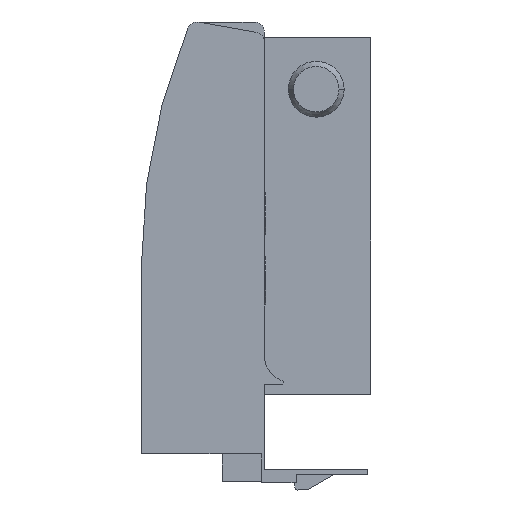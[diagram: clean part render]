
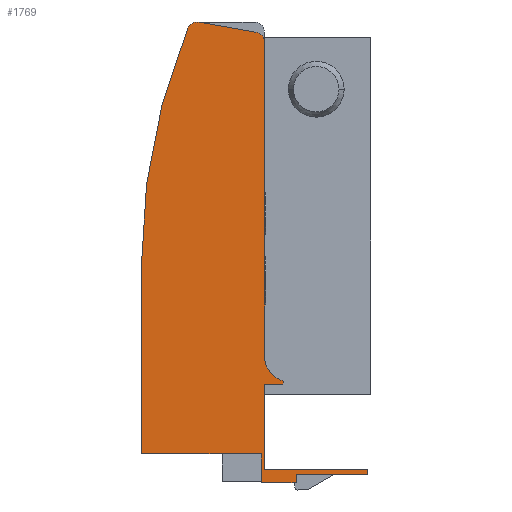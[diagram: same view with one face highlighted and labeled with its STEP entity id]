
A CAD part, front view. The second image highlights one B-rep face of the part: STEP entity #1769.
In plain terms, the highlighted planar face has unit normal (0, -1, 0).
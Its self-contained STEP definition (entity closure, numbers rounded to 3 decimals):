
#46 = VECTOR ( 'NONE', #949, 1000. ) ;
#47 = LINE ( 'NONE', #948, #46 ) ;
#61 = CIRCLE ( 'NONE', #1439, 5. ) ;
#67 = VECTOR ( 'NONE', #926, 1000. ) ;
#68 = LINE ( 'NONE', #925, #67 ) ;
#77 = VECTOR ( 'NONE', #916, 1000. ) ;
#79 = LINE ( 'NONE', #915, #77 ) ;
#83 = VECTOR ( 'NONE', #906, 1000. ) ;
#84 = LINE ( 'NONE', #905, #83 ) ;
#97 = VECTOR ( 'NONE', #892, 1000. ) ;
#98 = LINE ( 'NONE', #891, #97 ) ;
#101 = VECTOR ( 'NONE', #888, 1000. ) ;
#102 = LINE ( 'NONE', #887, #101 ) ;
#118 = VECTOR ( 'NONE', #865, 1000. ) ;
#119 = LINE ( 'NONE', #864, #118 ) ;
#127 = VECTOR ( 'NONE', #854, 1000. ) ;
#128 = LINE ( 'NONE', #853, #127 ) ;
#134 = CIRCLE ( 'NONE', #1432, 2. ) ;
#140 = CIRCLE ( 'NONE', #1430, 2. ) ;
#142 = VECTOR ( 'NONE', #833, 1000. ) ;
#143 = CIRCLE ( 'NONE', #1429, 120.6 ) ;
#144 = LINE ( 'NONE', #832, #142 ) ;
#145 = VECTOR ( 'NONE', #828, 1000. ) ;
#146 = LINE ( 'NONE', #827, #145 ) ;
#147 = VECTOR ( 'NONE', #826, 1000. ) ;
#148 = LINE ( 'NONE', #825, #147 ) ;
#149 = VECTOR ( 'NONE', #824, 1000. ) ;
#150 = LINE ( 'NONE', #823, #149 ) ;
#151 = VECTOR ( 'NONE', #822, 1000. ) ;
#152 = LINE ( 'NONE', #821, #151 ) ;
#368 = ORIENTED_EDGE ( 'NONE', *, *, #1675, .F. ) ;
#386 = ORIENTED_EDGE ( 'NONE', *, *, #1683, .F. ) ;
#392 = ORIENTED_EDGE ( 'NONE', *, *, #1631, .T. ) ;
#395 = ORIENTED_EDGE ( 'NONE', *, *, #1630, .T. ) ;
#400 = ORIENTED_EDGE ( 'NONE', *, *, #1629, .F. ) ;
#404 = ORIENTED_EDGE ( 'NONE', *, *, #1672, .F. ) ;
#405 = ORIENTED_EDGE ( 'NONE', *, *, #1635, .F. ) ;
#442 = ORIENTED_EDGE ( 'NONE', *, *, #1644, .F. ) ;
#444 = ORIENTED_EDGE ( 'NONE', *, *, #1667, .F. ) ;
#490 = ORIENTED_EDGE ( 'NONE', *, *, #1656, .F. ) ;
#507 = ORIENTED_EDGE ( 'NONE', *, *, #1639, .F. ) ;
#676 = CARTESIAN_POINT ( 'NONE',  ( 21.5, 0., 5.395 ) ) ;
#679 = CARTESIAN_POINT ( 'NONE',  ( 20.9, 0., -19.1 ) ) ;
#681 = CARTESIAN_POINT ( 'NONE',  ( 6.648, 0., 68.756 ) ) ;
#698 = CARTESIAN_POINT ( 'NONE',  ( 25.161, 0., 0.578 ) ) ;
#711 = CARTESIAN_POINT ( 'NONE',  ( 25., 0., 0. ) ) ;
#715 = CARTESIAN_POINT ( 'NONE',  ( 41.499, 0., -16.5 ) ) ;
#721 = CARTESIAN_POINT ( 'NONE',  ( 8.847, 0., 69.97 ) ) ;
#725 = CARTESIAN_POINT ( 'NONE',  ( 19.847, 0., 68.03 ) ) ;
#730 = CARTESIAN_POINT ( 'NONE',  ( -2.3, 0., -13.5 ) ) ;
#790 = CARTESIAN_POINT ( 'NONE',  ( 27.599, 0., -19.1 ) ) ;
#821 = CARTESIAN_POINT ( 'NONE',  ( 25., 0., 0. ) ) ;
#822 = DIRECTION ( 'NONE',  ( -1., 0., 0. ) ) ;
#823 = CARTESIAN_POINT ( 'NONE',  ( 41.499, 0., -16.5 ) ) ;
#824 = DIRECTION ( 'NONE',  ( 0., 0., -1. ) ) ;
#825 = CARTESIAN_POINT ( 'NONE',  ( 41.499, 0., -17.528 ) ) ;
#826 = DIRECTION ( 'NONE',  ( -1., 0., 0. ) ) ;
#827 = CARTESIAN_POINT ( 'NONE',  ( 27.599, 0., -17.528 ) ) ;
#828 = DIRECTION ( 'NONE',  ( 0., 0., -1. ) ) ;
#829 = CARTESIAN_POINT ( 'NONE',  ( 118.3, 0., 23.168 ) ) ;
#830 = DIRECTION ( 'NONE',  ( 0., 1., 0. ) ) ;
#831 = DIRECTION ( 'NONE',  ( -1., 0., 0. ) ) ;
#832 = CARTESIAN_POINT ( 'NONE',  ( 8.847, 0., 69.97 ) ) ;
#833 = DIRECTION ( 'NONE',  ( -0.985, 0., 0.174 ) ) ;
#834 = CARTESIAN_POINT ( 'NONE',  ( 19.5, 0., 66.06 ) ) ;
#835 = DIRECTION ( 'NONE',  ( 0., -1., 0. ) ) ;
#836 = DIRECTION ( 'NONE',  ( -1., 0., 0. ) ) ;
#844 = CARTESIAN_POINT ( 'NONE',  ( 8.5, 0., 68. ) ) ;
#845 = DIRECTION ( 'NONE',  ( 0., 1., 0. ) ) ;
#846 = DIRECTION ( 'NONE',  ( -1., 0., 0. ) ) ;
#853 = CARTESIAN_POINT ( 'NONE',  ( 21.5, 0., -13.5 ) ) ;
#854 = DIRECTION ( 'NONE',  ( -1., 0., 0. ) ) ;
#864 = CARTESIAN_POINT ( 'NONE',  ( -2.3, 0., -13.5 ) ) ;
#865 = DIRECTION ( 'NONE',  ( 0., 0., 1. ) ) ;
#887 = CARTESIAN_POINT ( 'NONE',  ( 21.5, 0., 0. ) ) ;
#888 = DIRECTION ( 'NONE',  ( 0., 0., -1. ) ) ;
#891 = CARTESIAN_POINT ( 'NONE',  ( 27.599, 0., -19.1 ) ) ;
#892 = DIRECTION ( 'NONE',  ( -1., 0., 0. ) ) ;
#905 = CARTESIAN_POINT ( 'NONE',  ( 21.5, 0., -16.5 ) ) ;
#906 = DIRECTION ( 'NONE',  ( 1., 0., 0. ) ) ;
#915 = CARTESIAN_POINT ( 'NONE',  ( 21.5, 0., 68. ) ) ;
#916 = DIRECTION ( 'NONE',  ( 0., 0., -1. ) ) ;
#925 = CARTESIAN_POINT ( 'NONE',  ( 25.161, 0., 0.578 ) ) ;
#926 = DIRECTION ( 'NONE',  ( -0.268, 0., -0.963 ) ) ;
#931 = CARTESIAN_POINT ( 'NONE',  ( 26.5, 0., 5.395 ) ) ;
#932 = DIRECTION ( 'NONE',  ( 0., -1., 0. ) ) ;
#933 = DIRECTION ( 'NONE',  ( -1., 0., 0. ) ) ;
#948 = CARTESIAN_POINT ( 'NONE',  ( 20.9, 0., -19.1 ) ) ;
#949 = DIRECTION ( 'NONE',  ( 0., 0., 1. ) ) ;
#1207 = PLANE ( 'NONE',  #1485 ) ;
#1208 = CARTESIAN_POINT ( 'NONE',  ( 4.5, 0., 34.728 ) ) ;
#1209 = DIRECTION ( 'NONE',  ( 0., -1., 0. ) ) ;
#1210 = DIRECTION ( 'NONE',  ( -1., 0., 0. ) ) ;
#1317 = CARTESIAN_POINT ( 'NONE',  ( 20.9, 0., -13.5 ) ) ;
#1318 = CARTESIAN_POINT ( 'NONE',  ( 21.5, 0., 66.06 ) ) ;
#1319 = CARTESIAN_POINT ( 'NONE',  ( 41.499, 0., -17.528 ) ) ;
#1323 = CARTESIAN_POINT ( 'NONE',  ( 21.5, 0., -16.5 ) ) ;
#1336 = CARTESIAN_POINT ( 'NONE',  ( -2.3, 0., 23.168 ) ) ;
#1342 = CARTESIAN_POINT ( 'NONE',  ( 21.5, 0., 0. ) ) ;
#1344 = CARTESIAN_POINT ( 'NONE',  ( 27.599, 0., -17.528 ) ) ;
#1429 = AXIS2_PLACEMENT_3D ( 'NONE', #829, #830, #831 ) ;
#1430 = AXIS2_PLACEMENT_3D ( 'NONE', #834, #835, #836 ) ;
#1432 = AXIS2_PLACEMENT_3D ( 'NONE', #844, #845, #846 ) ;
#1439 = AXIS2_PLACEMENT_3D ( 'NONE', #931, #932, #933 ) ;
#1485 = AXIS2_PLACEMENT_3D ( 'NONE', #1208, #1209, #1210 ) ;
#1522 = VERTEX_POINT ( 'NONE', #676 ) ;
#1525 = VERTEX_POINT ( 'NONE', #679 ) ;
#1527 = VERTEX_POINT ( 'NONE', #681 ) ;
#1544 = VERTEX_POINT ( 'NONE', #698 ) ;
#1557 = VERTEX_POINT ( 'NONE', #711 ) ;
#1561 = VERTEX_POINT ( 'NONE', #715 ) ;
#1567 = VERTEX_POINT ( 'NONE', #721 ) ;
#1571 = VERTEX_POINT ( 'NONE', #725 ) ;
#1576 = VERTEX_POINT ( 'NONE', #730 ) ;
#1608 = VERTEX_POINT ( 'NONE', #790 ) ;
#1625 = EDGE_CURVE ( 'NONE', #1557, #2038, #152, .T. ) ;
#1626 = EDGE_CURVE ( 'NONE', #1561, #2015, #150, .T. ) ;
#1627 = EDGE_CURVE ( 'NONE', #2015, #2040, #148, .T. ) ;
#1628 = EDGE_CURVE ( 'NONE', #2040, #1608, #146, .T. ) ;
#1629 = EDGE_CURVE ( 'NONE', #2032, #1527, #143, .T. ) ;
#1630 = EDGE_CURVE ( 'NONE', #1571, #1567, #144, .T. ) ;
#1631 = EDGE_CURVE ( 'NONE', #2014, #1571, #140, .T. ) ;
#1635 = EDGE_CURVE ( 'NONE', #1527, #1567, #134, .T. ) ;
#1639 = EDGE_CURVE ( 'NONE', #2013, #1576, #128, .T. ) ;
#1644 = EDGE_CURVE ( 'NONE', #1576, #2032, #119, .T. ) ;
#1654 = EDGE_CURVE ( 'NONE', #2038, #2019, #102, .T. ) ;
#1656 = EDGE_CURVE ( 'NONE', #1608, #1525, #98, .T. ) ;
#1663 = EDGE_CURVE ( 'NONE', #2019, #1561, #84, .T. ) ;
#1667 = EDGE_CURVE ( 'NONE', #2014, #1522, #79, .T. ) ;
#1672 = EDGE_CURVE ( 'NONE', #1544, #1557, #68, .T. ) ;
#1675 = EDGE_CURVE ( 'NONE', #1522, #1544, #61, .T. ) ;
#1683 = EDGE_CURVE ( 'NONE', #1525, #2013, #47, .T. ) ;
#1769 = ADVANCED_FACE ( 'NONE', ( #2087 ), #1207, .T. ) ;
#1849 = ORIENTED_EDGE ( 'NONE', *, *, #1628, .F. ) ;
#1850 = ORIENTED_EDGE ( 'NONE', *, *, #1627, .F. ) ;
#1851 = ORIENTED_EDGE ( 'NONE', *, *, #1626, .F. ) ;
#1852 = ORIENTED_EDGE ( 'NONE', *, *, #1663, .F. ) ;
#1853 = ORIENTED_EDGE ( 'NONE', *, *, #1654, .F. ) ;
#1854 = ORIENTED_EDGE ( 'NONE', *, *, #1625, .F. ) ;
#1982 = EDGE_LOOP ( 'NONE', ( #404, #368, #444, #392, #395, #405, #400, #442, #507, #386, #490, #1849, #1850, #1851, #1852, #1853, #1854 ) ) ;
#2013 = VERTEX_POINT ( 'NONE', #1317 ) ;
#2014 = VERTEX_POINT ( 'NONE', #1318 ) ;
#2015 = VERTEX_POINT ( 'NONE', #1319 ) ;
#2019 = VERTEX_POINT ( 'NONE', #1323 ) ;
#2032 = VERTEX_POINT ( 'NONE', #1336 ) ;
#2038 = VERTEX_POINT ( 'NONE', #1342 ) ;
#2040 = VERTEX_POINT ( 'NONE', #1344 ) ;
#2087 = FACE_OUTER_BOUND ( 'NONE', #1982, .T. ) ;
